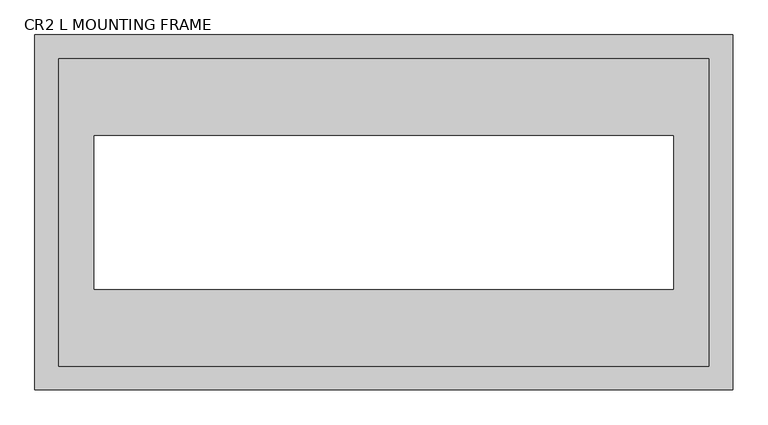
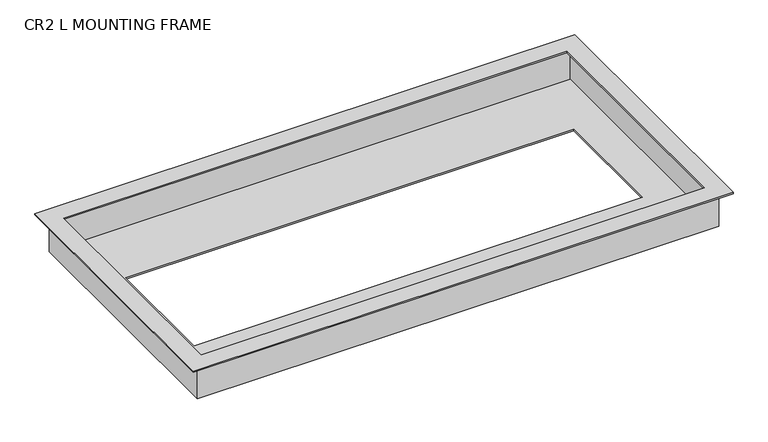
"""IFC4 building model written with IfcOpenShell, lengths in millimetres: light fixture geometry, Zumtobel CR2P MOUNTING FRAME : CR2 L MOUNTING FRAME."""

from ifc_helpers import new_model, si_unit, origin, place, context, project, spatial, faceted_brep, source, transform, mapped, element, save


def cr2_l_mounting_frame_a74c24b9(model_context):
    return source(origin(), model_context, "Body", "Brep", [
        faceted_brep([(-190.4999952, -300.0, 2.9939766), (-190.4999952, -300.0, 0.0), (989.5000048, -300.0, 0.0), (989.5000048, -300.0, 2.9939766), (-167.4999952, -277.0, 0.0), (966.5000048, -277.0, 0.0), (966.5000048, -277.0, -77.0), (-167.4999952, -277.0, -77.0), (-170.4999952, -280.0, -80.0060234), (969.5000048, -280.0, -80.0060234), (969.5000048, -280.0, -77.0), (969.5000048, -280.0, 0.0), (-170.4999952, -280.0, 0.0), (-170.4999952, -280.0, -77.0), (989.5000048, 300.0, 0.0), (989.5000048, 300.0, 2.9939766), (966.5000048, 277.0, 0.0), (966.5000048, 277.0, -77.0), (969.5000048, 280.0, -80.0060234), (969.5000048, 280.0, -77.0), (969.5000048, 280.0, 0.0), (-190.4999952, 300.0, 0.0), (-190.4999952, 300.0, 2.9939766), (-167.4999952, 277.0, 0.0), (-167.4999952, 277.0, -77.0), (-170.4999952, 280.0, -80.0060234), (-170.4999952, 280.0, -77.0), (-170.4999952, 280.0, 0.0), (-150.4999952, -260.0, 2.9939766), (-150.4999952, 260.0, 2.9939766), (949.5000048, 260.0, 2.9939766), (949.5000048, -260.0, 2.9939766), (889.5000048, 130.0, -80.0060234), (-90.4999952, 130.0, -80.0060234), (-90.4999952, -130.0, -80.0060234), (889.5000048, -130.0, -80.0060234), (949.5000048, -260.0, 0.0), (-150.4999952, -260.0, 0.0), (949.5000048, 260.0, 0.0), (-150.4999952, 260.0, 0.0), (889.5000048, 130.0, -77.0), (889.5000048, -130.0, -77.0), (-90.4999952, -130.0, -77.0), (-90.4999952, 130.0, -77.0)], [[[0, 1, 2, 3]], [[4, 5, 6, 7]], [[8, 9, 10, 11, 12, 13]], [[3, 2, 14, 15]], [[5, 16, 17, 6]], [[9, 18, 19, 20, 11, 10]], [[15, 14, 21, 22]], [[16, 23, 24, 17]], [[18, 25, 26, 27, 20, 19]], [[1, 0, 22, 21]], [[0, 3, 15, 22], [28, 29, 30, 31]], [[23, 4, 7, 24]], [[9, 8, 25, 18], [32, 33, 34, 35]], [[25, 8, 13, 12, 27, 26]], [[2, 1, 21, 14], [12, 11, 20, 27]], [[28, 31, 36, 37]], [[31, 30, 38, 36]], [[30, 29, 39, 38]], [[29, 28, 37, 39]], [[5, 4, 23, 16], [37, 36, 38, 39]], [[7, 6, 17, 24], [40, 41, 42, 43]], [[41, 40, 32, 35]], [[42, 41, 35, 34]], [[43, 42, 34, 33]], [[40, 43, 33, 32]]]),
    ])


if __name__ == "__main__":
    model = new_model("IFC4")
    model_context = context("Model", 3, world=origin())
    ifc_project = project(units=[si_unit("LENGTHUNIT", "METRE", prefix="MILLI")], contexts=[model_context])
    site = spatial("IfcSite", under=ifc_project)
    building = spatial("IfcBuilding", under=site)
    placement = place(None, origin())
    cr2_l_mounting_frame_shape = cr2_l_mounting_frame_a74c24b9(model_context)
    element("IfcLightFixture", 1, ObjectType="Zumtobel CR2P MOUNTING FRAME : CR2 L MOUNTING FRAME", at=placement, inside=building, context=model_context, shape_type="MappedRepresentation", body=[
        mapped(cr2_l_mounting_frame_shape, transform((0.0, 0.0, 0.0), x_axis=(1.0, 0.0, 0.0), y_axis=(0.0, 1.0, 0.0), z_axis=(0.0, 0.0, 1.0))),
    ])
    save(model, "model.ifc")
